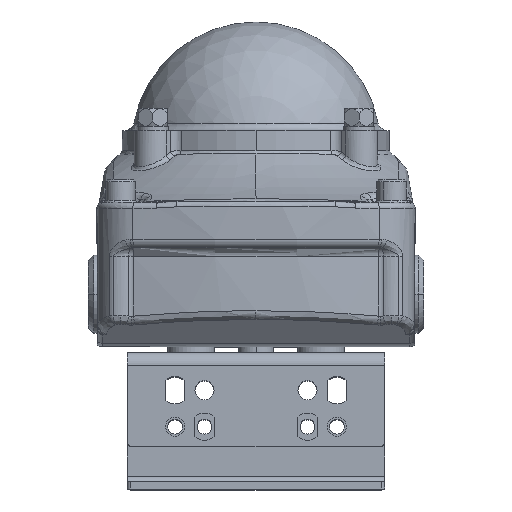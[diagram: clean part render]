
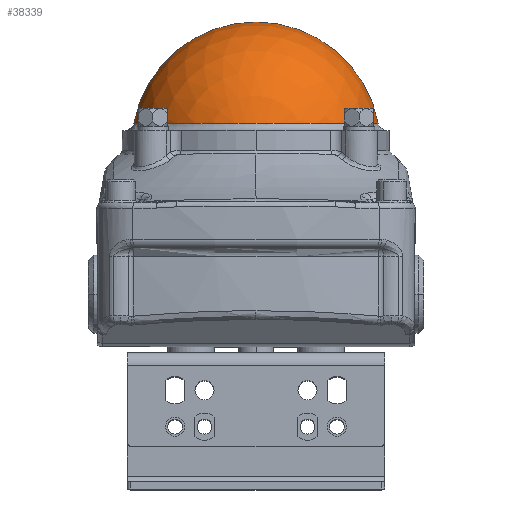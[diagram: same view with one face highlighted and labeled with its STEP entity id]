
A CAD part, top view. The second image highlights one B-rep face of the part: STEP entity #38339.
In plain terms, the highlighted spherical face has radius 33.782 mm.
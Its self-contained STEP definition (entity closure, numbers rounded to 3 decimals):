
#437 = DIRECTION ( 'NONE',  ( 1., 0., 0. ) ) ;
#1037 = DIRECTION ( 'NONE',  ( 0., 0., 1. ) ) ;
#1107 = AXIS2_PLACEMENT_3D ( 'NONE', #38640, #16024, #437 ) ;
#2397 = ORIENTED_EDGE ( 'NONE', *, *, #40360, .T. ) ;
#5344 = VERTEX_POINT ( 'NONE', #17987 ) ;
#5642 = ORIENTED_EDGE ( 'NONE', *, *, #17459, .F. ) ;
#6241 = VERTEX_POINT ( 'NONE', #38798 ) ;
#9933 = DIRECTION ( 'NONE',  ( -1., 0., 0. ) ) ;
#11901 = CIRCLE ( 'NONE', #14395, 33.782 ) ;
#12914 = CIRCLE ( 'NONE', #27541, 33.782 ) ;
#14395 = AXIS2_PLACEMENT_3D ( 'NONE', #33787, #20920, #30395 ) ;
#16024 = DIRECTION ( 'NONE',  ( 0., 1., 0. ) ) ;
#16632 = DIRECTION ( 'NONE',  ( 1., 0., 0. ) ) ;
#16774 = CARTESIAN_POINT ( 'NONE',  ( 0., 45.352, -13.538 ) ) ;
#17009 = VERTEX_POINT ( 'NONE', #25170 ) ;
#17459 = EDGE_CURVE ( 'NONE', #6241, #5344, #11901, .T. ) ;
#17987 = CARTESIAN_POINT ( 'NONE',  ( 0., 79.134, -13.538 ) ) ;
#18503 = ORIENTED_EDGE ( 'NONE', *, *, #31159, .T. ) ;
#18684 = CARTESIAN_POINT ( 'NONE',  ( 0., 45.352, -13.538 ) ) ;
#20920 = DIRECTION ( 'NONE',  ( 0., 0., -1. ) ) ;
#21329 = AXIS2_PLACEMENT_3D ( 'NONE', #18684, #35382, #9933 ) ;
#25170 = CARTESIAN_POINT ( 'NONE',  ( 33.213, 51.524, -13.538 ) ) ;
#27541 = AXIS2_PLACEMENT_3D ( 'NONE', #16774, #1037, #16632 ) ;
#30395 = DIRECTION ( 'NONE',  ( -1., 0., 0. ) ) ;
#31159 = EDGE_CURVE ( 'NONE', #6241, #17009, #33388, .T. ) ;
#33388 = CIRCLE ( 'NONE', #1107, 33.213 ) ;
#33640 = FACE_OUTER_BOUND ( 'NONE', #41575, .T. ) ;
#33787 = CARTESIAN_POINT ( 'NONE',  ( 0., 45.352, -13.538 ) ) ;
#35382 = DIRECTION ( 'NONE',  ( 0., 0., 1. ) ) ;
#35658 = SPHERICAL_SURFACE ( 'NONE', #21329, 33.782 ) ;
#38339 = ADVANCED_FACE ( 'NONE', ( #33640 ), #35658, .T. ) ;
#38640 = CARTESIAN_POINT ( 'NONE',  ( 0., 51.524, -13.538 ) ) ;
#38798 = CARTESIAN_POINT ( 'NONE',  ( -33.213, 51.524, -13.538 ) ) ;
#40360 = EDGE_CURVE ( 'NONE', #17009, #5344, #12914, .T. ) ;
#41575 = EDGE_LOOP ( 'NONE', ( #18503, #2397, #5642 ) ) ;
